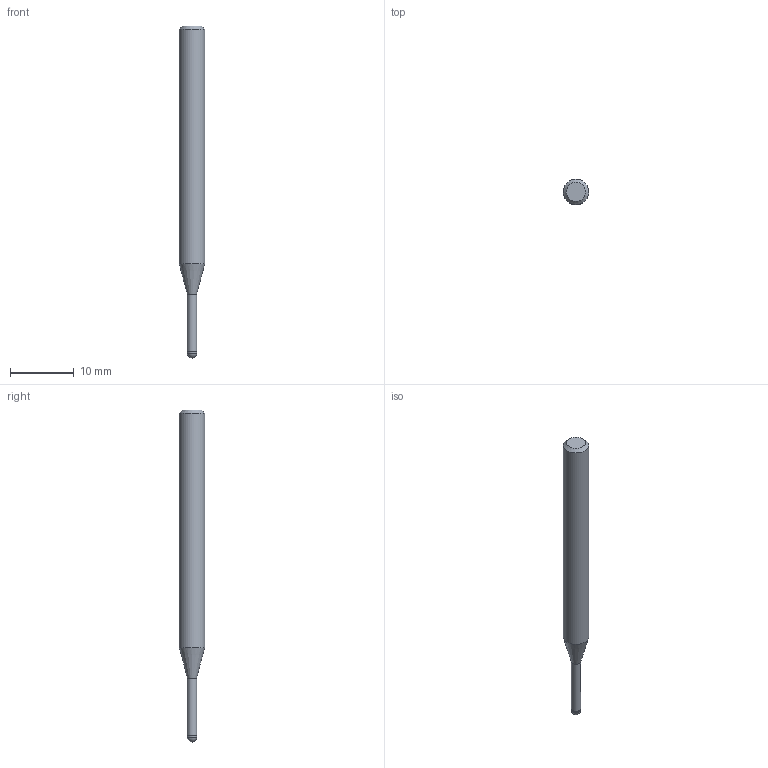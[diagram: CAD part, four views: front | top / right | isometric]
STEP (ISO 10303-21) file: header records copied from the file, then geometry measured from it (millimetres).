
FILE_DESCRIPTION((''),'2;1');
FILE_NAME('C:\Users\nsx150\AppData\Local\Temp\Mastercam 2021\LJSIDMOTM8\TEMP.step','2021-08-03T14:24:11',(''),(''),'STEP Write','Mastercam 2021 ... CNC Software, Inc.','');
FILE_SCHEMA(('AUTOMOTIVE_DESIGN'));
Length unit declared in the file: millimetre
Products named in the file (1): None
Bounding box: 4 x 4 x 52 mm (x, y, z)
Volume: 512.5 mm3; surface area: 567.9 mm2
Topology: 2 solids, 2 shells, 9 faces, 14 edges, 8 vertices
Faces by surface type: plane 3, cylinder 3, cone 2, sphere 1
Full cylindrical faces by diameter (mm): 1.45 x1, 1.5 x1, 4 x1
Entity records: 211 total; most frequent: DIRECTION 36, CARTESIAN_POINT 25, AXIS2_PLACEMENT_3D 18, ORIENTED_EDGE 14, EDGE_LOOP 14, STYLED_ITEM 12, ADVANCED_FACE 9, FACE_BOUND 8
